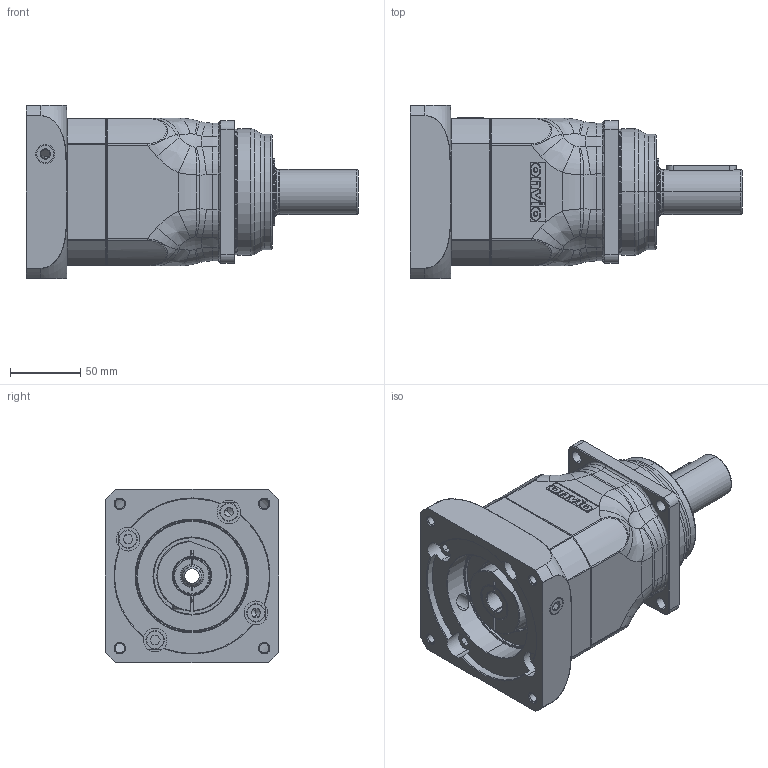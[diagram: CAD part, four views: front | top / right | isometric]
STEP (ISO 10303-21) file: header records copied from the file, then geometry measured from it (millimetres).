
FILE_DESCRIPTION (( 'STEP AP214' ), '1' );
FILE_NAME ('AH-030-RRR-FFF-MMM-S-LL-XXX-BXX-0000.STEP', '2019-10-11T20:26:14', ( '' ), ( '' ), 'SwSTEP 2.0', 'SolidWorks 2019', '' );
FILE_SCHEMA (( 'AUTOMOTIVE_DESIGN' ));
Length unit declared in the file: millimetre
Products named in the file (1): AH-030-RRR-FFF-MMM-S-LL-XXX-BXX-0000
Bounding box: 236 x 123 x 123 mm (x, y, z)
Surface area: 133426.7 mm2 (no closed solid volume)
Topology: 0 solids, 84 shells, 868 faces, 3580 edges, 2758 vertices
Faces by surface type: cylinder 278, plane 231, torus 173, cone 102, bspline 84
Entity records: 57511 total; most frequent: CARTESIAN_POINT 20347, DIRECTION 5362, ORIENTED_EDGE 5103, EDGE_CURVE 3570, VERTEX_POINT 2758, AXIS2_PLACEMENT_3D 1929, VECTOR 1504, LINE 1504
